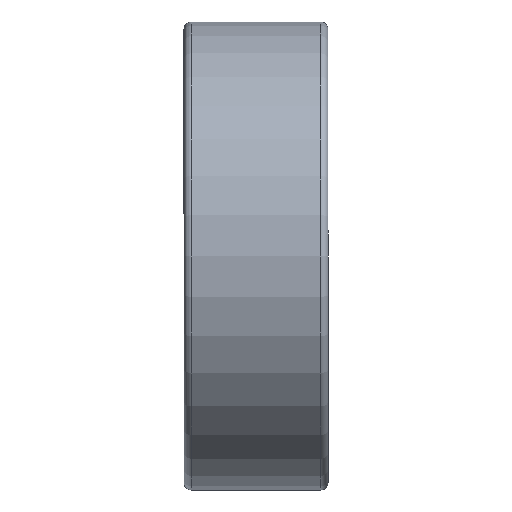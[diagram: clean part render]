
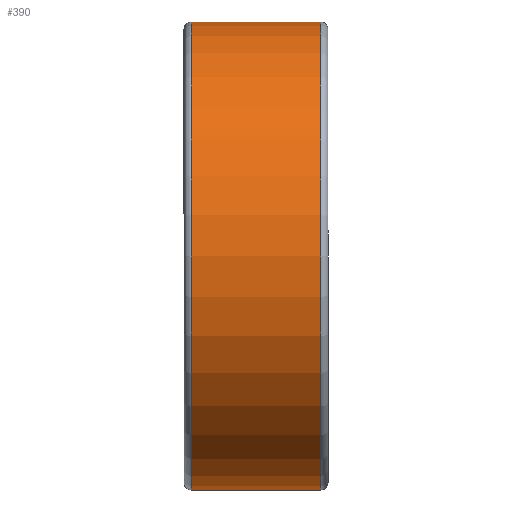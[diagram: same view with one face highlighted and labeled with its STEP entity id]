
A CAD part, front view. The second image highlights one B-rep face of the part: STEP entity #390.
In plain terms, the highlighted cylindrical face has radius 6.5 mm (diameter 13 mm), a full revolution.
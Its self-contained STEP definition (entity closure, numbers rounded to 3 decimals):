
#137=CYLINDRICAL_SURFACE('',#582,6.5);
#197=EDGE_LOOP('',(#269));
#198=EDGE_LOOP('',(#270));
#269=ORIENTED_EDGE('',*,*,#313,.F.);
#270=ORIENTED_EDGE('',*,*,#311,.T.);
#311=EDGE_CURVE('',#529,#529,#331,.T.);
#313=EDGE_CURVE('',#531,#531,#333,.T.);
#331=CIRCLE('',#578,6.5);
#333=CIRCLE('',#581,6.5);
#390=ADVANCED_FACE('',(#471,#472),#137,.T.);
#471=FACE_BOUND('',#197,.T.);
#472=FACE_BOUND('',#198,.T.);
#529=VERTEX_POINT('',#1714);
#531=VERTEX_POINT('',#1719);
#578=AXIS2_PLACEMENT_3D('',#1713,#676,#677);
#581=AXIS2_PLACEMENT_3D('',#1718,#682,#683);
#582=AXIS2_PLACEMENT_3D('',#1720,#684,#685);
#676=DIRECTION('',(1.,0.,0.));
#677=DIRECTION('',(0.,0.,-1.));
#682=DIRECTION('',(1.,0.,0.));
#683=DIRECTION('',(0.,0.,-1.));
#684=DIRECTION('',(1.,0.,0.));
#685=DIRECTION('',(0.,0.,-1.));
#1713=CARTESIAN_POINT('',(-1.8,0.,0.));
#1714=CARTESIAN_POINT('',(-1.8,0.,-6.5));
#1718=CARTESIAN_POINT('',(1.8,0.,0.));
#1719=CARTESIAN_POINT('',(1.8,0.,-6.5));
#1720=CARTESIAN_POINT('',(-1.8,0.,0.));
